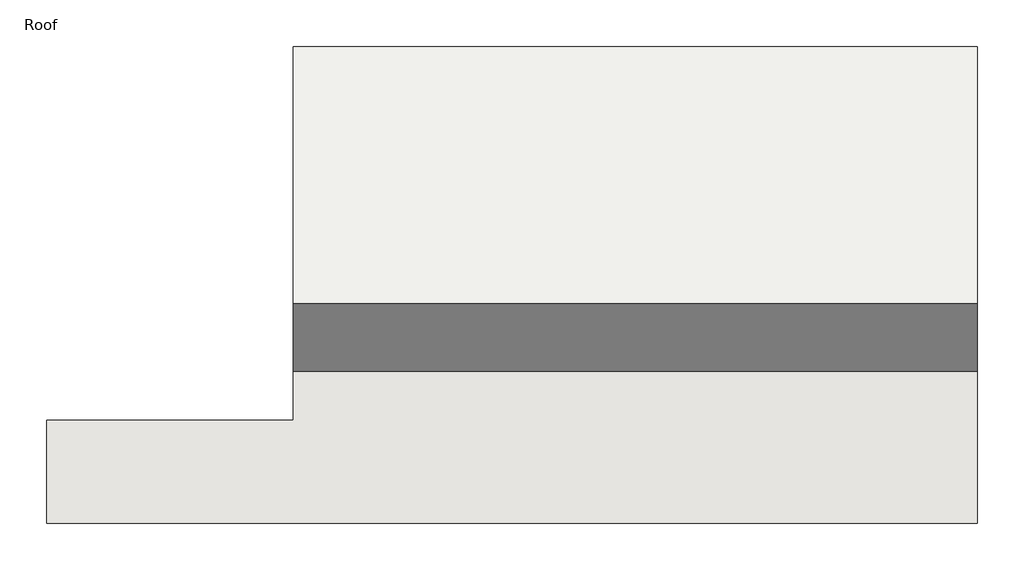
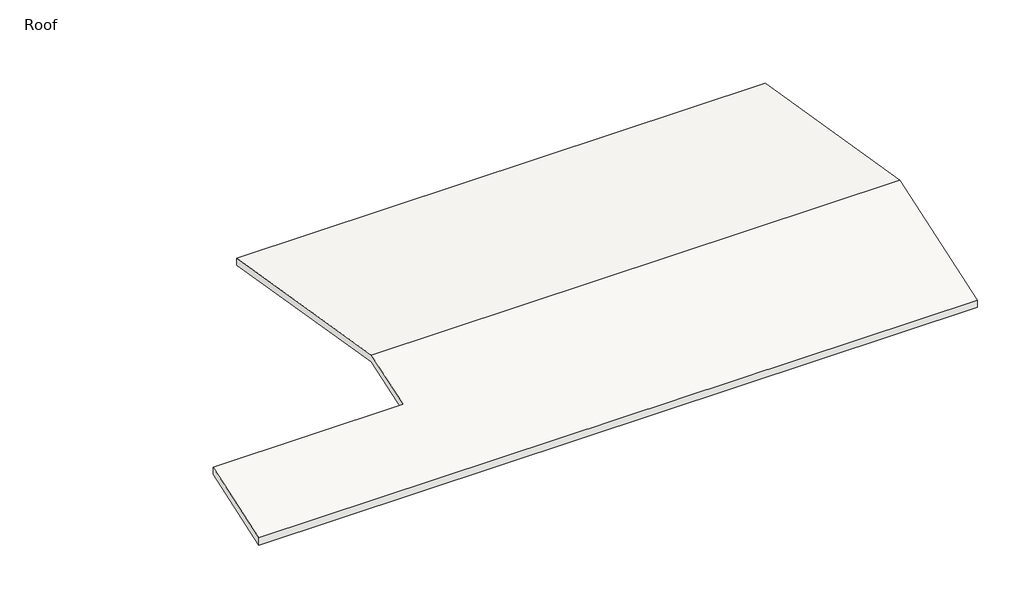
# One storey: 1 roof.
"""IFC4 building model written with IfcOpenShell, lengths in millimetres."""

import ifcopenshell
import ifcopenshell.guid

model = None  # the IFC model being written
_history = None  # IfcOwnerHistory: only IFC2X3 demands one
_inside = {}  # id of a spatial element -> (the spatial element, [elements in it])
_under = {}  # id of a project, library or spatial element -> (it, [spatial elements below it])
_declared = {}  # id of a project -> (the project, [libraries it declares])
_typed = {}  # id of a type object -> (the type object, [elements of that type])
_made_of = {}  # id of a material, layer set ... -> (it, [elements and type objects made of it])


def new_model(schema):
    """Start an empty IFC model of exactly this schema.

    Asked for "IFC4X3", IfcOpenShell would pick the latest addendum, in which some entities
    have other attributes; the version numbers below select the first issue.
    IFC2X3 requires an IfcOwnerHistory on every rooted entity: one is made here for all.
    """
    global model, _history
    if schema == "IFC4X3":
        model = ifcopenshell.file(schema_version=(4, 3, 0, 0))
    else:
        model = ifcopenshell.file(schema=schema)
    _inside.clear()
    _under.clear()
    _declared.clear()
    _typed.clear()
    _made_of.clear()
    _history = None
    if model.schema == "IFC2X3":
        org = make("IfcOrganization", Name="unknown")
        user = make(
            "IfcPersonAndOrganization",
            ThePerson=make("IfcPerson", FamilyName="unknown"),
            TheOrganization=org,
        )
        app = make(
            "IfcApplication",
            ApplicationDeveloper=org,
            Version="unknown",
            ApplicationFullName="unknown",
            ApplicationIdentifier="unknown",
        )
        _history = make(
            "IfcOwnerHistory",
            OwningUser=user,
            OwningApplication=app,
            ChangeAction="ADDED",
            CreationDate=0,
        )
    return model


def make(cls, **values):
    """One entity of the class cls with the attributes given. An attribute that is None is left unset."""
    return model.create_entity(
        cls, **{name: value for name, value in values.items() if value is not None}
    )


def rooted(cls, **values):
    """An entity with a GlobalId (a new one), such as an element, a storey or a relation."""
    return make(cls, GlobalId=ifcopenshell.guid.new(), OwnerHistory=_history, **values)


def si_unit(unit_type, name, prefix=None):
    """IfcSIUnit, for example si_unit("LENGTHUNIT", "METRE", prefix="MILLI")."""
    return make("IfcSIUnit", UnitType=unit_type, Prefix=prefix, Name=name)


def assignment(units):
    """IfcUnitAssignment: the units of a project."""
    return None if units is None else make("IfcUnitAssignment", Units=units)


def point(xyz):
    """IfcCartesianPoint."""
    return None if xyz is None else make("IfcCartesianPoint", Coordinates=xyz)


def direction(xyz):
    """IfcDirection."""
    return None if xyz is None else make("IfcDirection", DirectionRatios=xyz)


def frame(location, z_axis=None, x_axis=None):
    """IfcAxis2Placement3D, a coordinate frame: its origin and axes. An axis left out is left unset."""
    return make(
        "IfcAxis2Placement3D",
        Location=point(location),
        Axis=direction(z_axis),
        RefDirection=direction(x_axis),
    )


def origin():
    """The frame at (0, 0, 0) with its axes left unset."""
    return frame((0.0, 0.0, 0.0))


def place(relative_to, where):
    """IfcLocalPlacement: puts the frame where relative to a parent placement (None: the world)."""
    return make(
        "IfcLocalPlacement", PlacementRelTo=relative_to, RelativePlacement=where
    )


def context(
    kind, dimensions, precision=None, world=None, true_north=None, identifier=None
):
    """IfcGeometricRepresentationContext, for example the 3D "Model" context."""
    return make(
        "IfcGeometricRepresentationContext",
        ContextIdentifier=identifier,
        ContextType=kind,
        CoordinateSpaceDimension=dimensions,
        Precision=precision,
        WorldCoordinateSystem=world,
        TrueNorth=true_north,
    )


def project(units=None, contexts=None):
    """IfcProject with its units and contexts."""
    return rooted(
        "IfcProject",
        Name="project",
        RepresentationContexts=contexts,
        UnitsInContext=assignment(units),
    )


def spatial(cls, under=None, at=None, **own):
    """A site, building, storey or space (cls), placed at a placement, below another one or the project."""
    s = rooted(cls, ObjectPlacement=at, **own)
    if under is not None:
        _under.setdefault(under.id(), (under, []))[1].append(s)
    return s


def faces_of(points, faces, orient=None, outer=None):
    """IfcFace entities. A face is a list of loops; a loop is a list of indices into points, from 0.

    orient and outer hold one flag for each loop. By default every Orientation is true, the
    first loop of a face is its IfcFaceOuterBound and the others are IfcFaceBound.
    """
    made = []
    for i, loops in enumerate(faces):
        bounds = []
        for j, loop in enumerate(loops):
            is_outer = j == 0 if outer is None else outer[i][j]
            bounds.append(
                make(
                    "IfcFaceOuterBound" if is_outer else "IfcFaceBound",
                    Bound=make("IfcPolyLoop", Polygon=[points[k] for k in loop]),
                    Orientation=True if orient is None else orient[i][j],
                )
            )
        made.append(make("IfcFace", Bounds=bounds))
    return made


def faceted_brep(points, faces, orient=None, outer=None, voids=None):
    """IfcFacetedBrep: a solid bounded by flat faces; with voids (closed shells), ...WithVoids."""
    shared = [point(p) for p in points]
    hull = make("IfcClosedShell", CfsFaces=faces_of(shared, faces, orient, outer))
    if voids is None:
        return make("IfcFacetedBrep", Outer=hull)
    return make(
        "IfcFacetedBrepWithVoids",
        Outer=hull,
        Voids=[
            make(cls, CfsFaces=faces_of(shared, fs, o, b)) for cls, fs, o, b in voids
        ],
    )


def shape(context_of_items, identifier, shape_type, items):
    """IfcShapeRepresentation: the items that make up one representation, for example the "Body"."""
    return make(
        "IfcShapeRepresentation",
        ContextOfItems=context_of_items,
        RepresentationIdentifier=identifier,
        RepresentationType=shape_type,
        Items=items,
    )


def made_of(thing, what):
    """Note that an element or type object is made of a material, layer set ...; save() writes the relation."""
    if what is not None:
        _made_of.setdefault(what.id(), (what, []))[1].append(thing)
    return thing


def element(
    cls,
    number,
    at=None,
    inside=None,
    cuts=None,
    type_object=None,
    material=None,
    context=None,
    identifier="Body",
    shape_type=None,
    held_by="IfcProductDefinitionShape",
    body=None,
    shapes=None,
    **own,
):
    """One element of the class cls, such as IfcWall. Its Tag is "e" and its number.

    at: its placement. inside: the storey or other place that contains it. cuts: it is an
    opening in that element (IfcRelVoidsElement). A single representation is given by context,
    identifier, shape_type and body (its items); several are given by shapes. held_by: the class
    of the entity that holds the representations. save() writes the other relations.
    """
    e = rooted(cls, Tag="e%d" % number, ObjectPlacement=at, **own)
    if body is not None:
        shapes = [shape(context, identifier, shape_type, body)]
    if shapes is not None:
        e.Representation = make(held_by, Representations=shapes)
    if inside is not None:
        _inside.setdefault(inside.id(), (inside, []))[1].append(e)
    if cuts is not None:
        rooted(
            "IfcRelVoidsElement", RelatingBuildingElement=cuts, RelatedOpeningElement=e
        )
    if type_object is not None:
        _typed.setdefault(type_object.id(), (type_object, []))[1].append(e)
    return made_of(e, material)


def aggregate(whole, parts):
    """IfcRelAggregates: a whole, such as a stair, and the parts it consists of."""
    return rooted("IfcRelAggregates", RelatingObject=whole, RelatedObjects=parts)


def save(model, path):
    """Write the relations noted so far, then the file.

    IfcRelAggregates (storeys below a building ...), IfcRelContainedInSpatialStructure (elements
    in a storey), IfcRelDefinesByType, IfcRelAssociatesMaterial and IfcRelDeclares: one each for
    every whole, place, type object, material and project.
    """
    for whole, parts in _under.values():
        aggregate(whole, parts)
    for where, things in _inside.values():
        rooted(
            "IfcRelContainedInSpatialStructure",
            RelatedElements=things,
            RelatingStructure=where,
        )
    for kind, things in _typed.values():
        rooted("IfcRelDefinesByType", RelatedObjects=things, RelatingType=kind)
    for what, things in _made_of.values():
        rooted("IfcRelAssociatesMaterial", RelatedObjects=things, RelatingMaterial=what)
    for by, libraries in _declared.values():
        rooted("IfcRelDeclares", RelatingContext=by, RelatedDefinitions=libraries)
    model.write(path)


model = new_model("IFC4")

# Units and contexts
model_context = context("Model", 3, world=origin())
ifc_project = project(units=[si_unit("LENGTHUNIT", "METRE", prefix="MILLI")], contexts=[model_context])

# Site, building, storey
site = spatial("IfcSite", under=ifc_project)
building = spatial("IfcBuilding", under=site)
storey = spatial("IfcBuildingStorey", under=building, Name="Roof", Elevation=3900.0)

# Roof
placement = place(None, origin())
element("IfcRoof", 1, ObjectType="Generic - 9\"", at=placement, inside=storey, context=model_context, shape_type="Brep", body=[
    faceted_brep([(17763.0733448, 1573.9855424, 5051.4666667), (17763.0733448, -2794.8144576, 3595.2), (-5452.5266552, -2794.8144576, 3595.2), (-5452.5266552, -227.8269576, 4450.8625), (694.2733448, -227.8269576, 4450.8625), (694.2733448, 1573.9855424, 5051.4666667), (17763.0733448, -2794.8144576, 3836.1655577), (17763.0733448, 1555.5609318, 5286.2906875), (694.2733448, 1555.5609318, 5286.2906875), (694.2733448, -227.8269576, 4691.8280577), (-5452.5266552, -227.8269576, 4691.8280577), (-5452.5266552, -2794.8144576, 3836.1655577), (694.2733448, 9092.3855424, 3798.4), (17763.0733448, 9092.3855424, 3798.4), (17763.0733448, 9092.3855424, 4030.1532524), (694.2733448, 9092.3855424, 4030.1532524)], [[[0, 1, 2, 3, 4, 5]], [[6, 7, 8, 9, 10, 11]], [[1, 6, 11, 2]], [[12, 13, 0, 5]], [[14, 15, 8, 7]], [[12, 15, 14, 13]], [[14, 7, 6, 1, 0, 13]], [[9, 8, 15, 12, 5, 4]], [[10, 9, 4, 3]], [[11, 10, 3, 2]]]),
])

save(model, "model.ifc")
